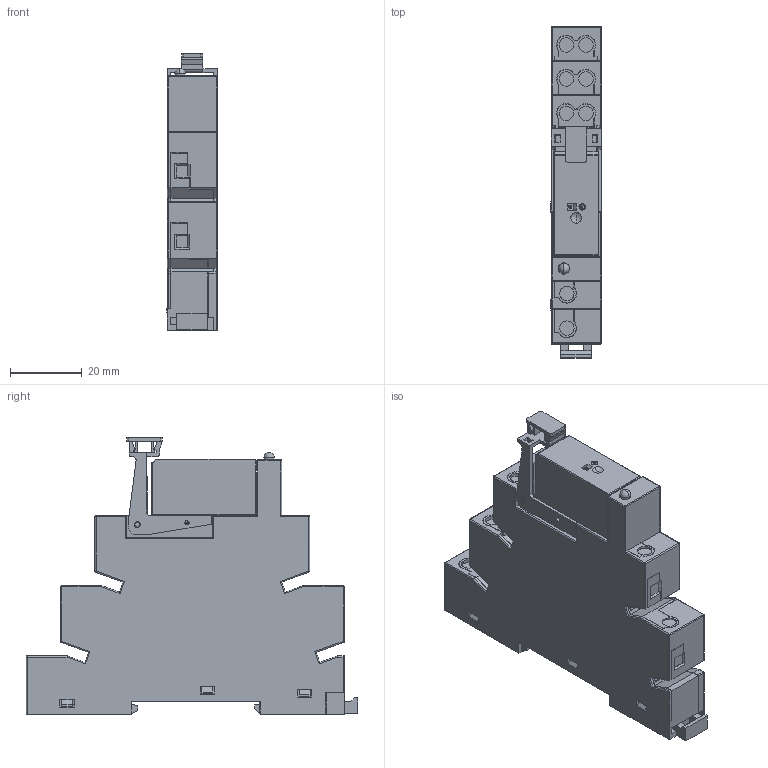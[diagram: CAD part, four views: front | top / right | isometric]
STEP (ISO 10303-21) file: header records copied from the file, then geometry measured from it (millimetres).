
FILE_DESCRIPTION (( 'STEP AP214' ), '1' );
FILE_NAME ('CRINT-C21x.STEP', '2024-06-14T06:41:51', ( '' ), ( '' ), 'SwSTEP 2.0', 'SolidWorks 2022', '' );
FILE_SCHEMA (( 'AUTOMOTIVE_DESIGN' ));
Length unit declared in the file: millimetre
Products named in the file (1): CRINT-C21x
Bounding box: 14.1 x 92.45 x 77.05 mm (x, y, z)
Volume: 59972.8 mm3; surface area: 26961.9 mm2
Topology: 1 solids, 7 shells, 1250 faces, 3516 edges, 2231 vertices
Faces by surface type: plane 982, cylinder 199, sphere 36, cone 19, bspline 8, torus 6
Entity records: 53252 total; most frequent: CARTESIAN_POINT 7589, ORIENTED_EDGE 6952, DIRECTION 6258, EDGE_CURVE 3476, LINE 2952, VECTOR 2952, VERTEX_POINT 2229, AXIS2_PLACEMENT_3D 1653
